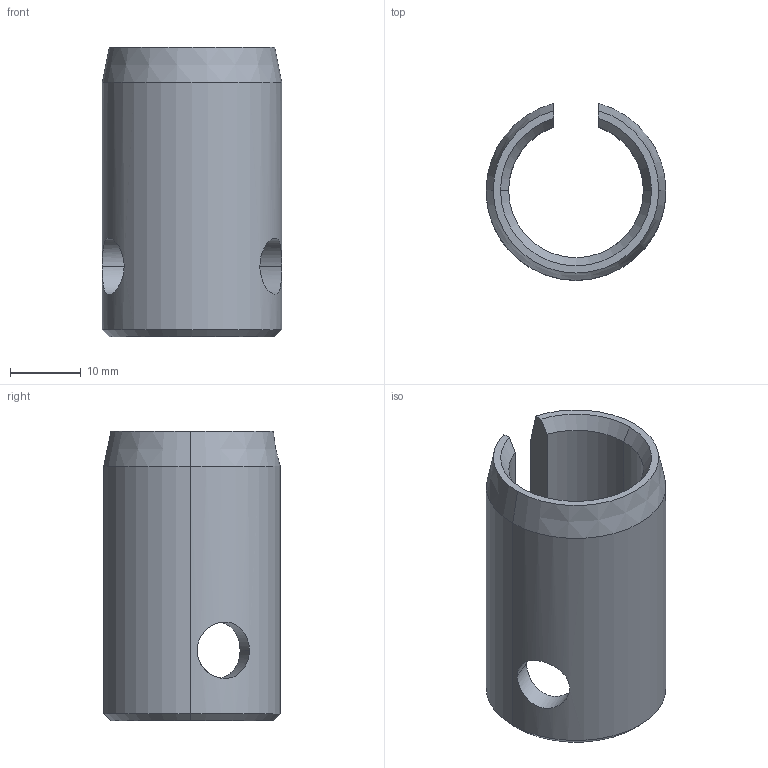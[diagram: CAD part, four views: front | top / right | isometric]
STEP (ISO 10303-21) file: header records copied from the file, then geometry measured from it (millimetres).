
FILE_DESCRIPTION (( 'STEP AP203' ), '1' );
FILE_NAME ('KBSH045P12.STEP', '2023-08-01T05:17:55', ( '' ), ( '' ), 'SwSTEP 2.0', 'SolidWorks 2012', '' );
FILE_SCHEMA (( 'CONFIG_CONTROL_DESIGN' ));
Length unit declared in the file: millimetre
Products named in the file (1): KBSH045P12
Bounding box: 25.4 x 25 x 41 mm (x, y, z)
Volume: 7583 mm3; surface area: 5615.6 mm2
Topology: 1 solids, 1 shells, 26 faces, 70 edges, 44 vertices
Faces by surface type: cone 12, cylinder 10, plane 4
Entity records: 1159 total; most frequent: CARTESIAN_POINT 441, ORIENTED_EDGE 140, DIRECTION 128, EDGE_CURVE 70, AXIS2_PLACEMENT_3D 51, VERTEX_POINT 44, EDGE_LOOP 28, VECTOR 26
